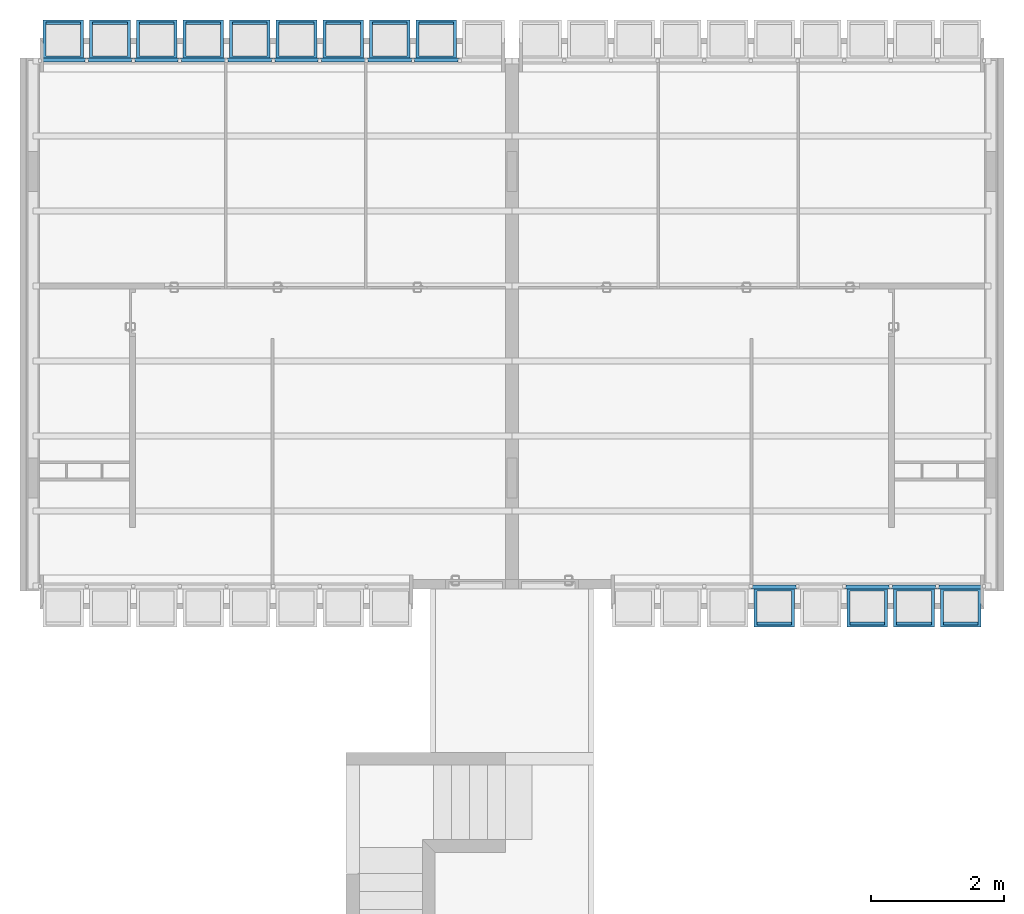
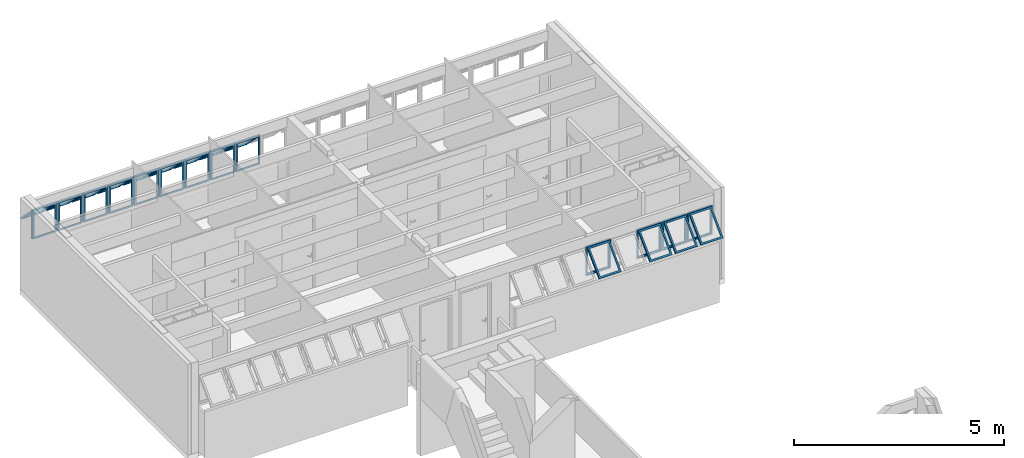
# One storey, part 33 of 38: 13 building element parts, 15 elements without a shape of their own.
"""IFC2X3 building model written with IfcOpenShell, lengths in millimetres."""

from ifc_helpers import new_model, entity, si_unit, converted_unit, derived_unit, money_unit, direction, frame, origin_with_axes, place, context, subcontext, project, spatial, faceted_brep, source, transform, mapped, material, type_object, element, aggregate, save


model = new_model("IFC2X3")

# Units and contexts
model_context = context("Model", 3, precision=0.01, world=origin_with_axes(), true_north=direction((0.0, 1.0)))
body_context = subcontext(model_context, "Body", "Model", "MODEL_VIEW")
ifc_project = project(units=[si_unit("LENGTHUNIT", "METRE", prefix="MILLI"), si_unit("AREAUNIT", "SQUARE_METRE"), si_unit("VOLUMEUNIT", "CUBIC_METRE"), converted_unit("PLANEANGLEUNIT", "DEGREE", entity("IfcPlaneAngleMeasure", 0.0174532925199), si_unit("PLANEANGLEUNIT", "RADIAN"), dimensions=[0, 0, 0, 0, 0, 0, 0]), money_unit("USD"), converted_unit("TIMEUNIT", "Year", entity("IfcTimeMeasure", 31556926.0), si_unit("TIMEUNIT", "SECOND"), dimensions=[0, 0, 1, 0, 0, 0, 0]), si_unit("MASSUNIT", "GRAM", prefix="KILO"), si_unit("THERMODYNAMICTEMPERATUREUNIT", "DEGREE_CELSIUS"), si_unit("LUMINOUSINTENSITYUNIT", "LUMEN"), si_unit("ENERGYUNIT", "JOULE", prefix="MEGA"), derived_unit("THERMALCONDUCTANCEUNIT", [(si_unit("POWERUNIT", "WATT"), 1), (si_unit("LENGTHUNIT", "METRE"), -1), (si_unit("THERMODYNAMICTEMPERATUREUNIT", "KELVIN"), -1)]), derived_unit("SPECIFICHEATCAPACITYUNIT", [(si_unit("ENERGYUNIT", "JOULE"), 1), (si_unit("MASSUNIT", "GRAM", prefix="KILO"), -1), (si_unit("THERMODYNAMICTEMPERATUREUNIT", "KELVIN"), -1)]), derived_unit("MASSDENSITYUNIT", [(si_unit("MASSUNIT", "GRAM", prefix="KILO"), 1), (si_unit("VOLUMEUNIT", "CUBIC_METRE"), -1)])], contexts=[model_context])

# Site, building, storey
site_placement = place(None, origin_with_axes())
site = spatial("IfcSite", under=ifc_project, at=site_placement, Name="Local", CompositionType="ELEMENT")
building_placement = place(site_placement, origin_with_axes())
building = spatial("IfcBuilding", under=site, at=building_placement, Name="Construção", CompositionType="ELEMENT")
storey_placement = place(building_placement, frame((0.0, 0.0, 2650.0), z_axis=(0.0, 0.0, 1.0), x_axis=(1.0, 0.0, 0.0)))
storey = spatial("IfcBuildingStorey", under=building, at=storey_placement, Name="Segundo Pavimento", CompositionType="ELEMENT", Elevation=2650.0)

# Window, plates, building element parts
window_style = type_object("IfcWindowStyle", Name="Tipo de Parede Cortina", ConstructionType="NOTDEFINED", OperationType="NOTDEFINED", ParameterTakesPrecedence=False, Sizeable=False)
window_1_placement = place(storey_placement, frame((6250.0, 25844.9790225, 1355.02054151), z_axis=(0.0, 0.0, 1.0), x_axis=(1.0, 0.0, 0.0)))
window_1 = element("IfcWindow", 1, at=window_1_placement, inside=storey, type_object=window_style, Name="APTO7-JANELA-001")
plate_type = type_object("IfcPlateType", Name="Painel Principal 690 x 845 x 20", PredefinedType="CURTAIN_PANEL")
plate_1_placement = place(window_1_placement, frame((0.0, 0.0, 422.499945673), z_axis=(0.0, 0.0, 1.0), x_axis=(-1.0, 0.0, 0.0)))
plate_1 = element("IfcPlate", 2, at=plate_1_placement, type_object=plate_type, Name="APTO7-Painel-Prin-030")
ifc_material = material(Name="Alumínio")
shared_shape_1 = source(origin_with_axes(), body_context, "Body", "Brep", [
    faceted_brep([(-25.0000036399, 0.0, -40.0), (-25.0000036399, 0.0, -35.0), (-674.999997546, 0.0, -35.0), (-674.999997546, 0.0, -40.0), (-70.0000036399, 45.0, -40.0), (-70.0000036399, 45.0, -35.0), (-629.999997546, 45.0, -35.0), (-629.999997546, 45.0, -40.0)], [[[0, 1, 2, 3]], [[4, 5, 1, 0]], [[1, 5, 6, 2]], [[3, 2, 6, 7]], [[0, 3, 7, 4]], [[7, 6, 5, 4]]]),
    faceted_brep([(-674.999997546, 0.0, -40.0), (-674.999997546, 0.0, -35.0), (-674.999997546, 844.999891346, -35.0), (-674.999997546, 844.999891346, -40.0), (-629.999997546, 45.0, -40.0), (-629.999997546, 45.0, -35.0), (-629.999997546, 799.999891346, -35.0), (-629.999997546, 799.999891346, -40.0)], [[[0, 1, 2, 3]], [[4, 5, 1, 0]], [[1, 5, 6, 2]], [[3, 2, 6, 7]], [[0, 3, 7, 4]], [[7, 6, 5, 4]]]),
    faceted_brep([(-25.0000036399, 844.999891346, -40.0), (-25.0000036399, 844.999891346, -35.0), (-70.0000036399, 799.999891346, -35.0), (-70.0000036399, 799.999891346, -40.0), (-674.999997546, 844.999891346, -40.0), (-674.999997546, 844.999891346, -35.0), (-629.999997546, 799.999891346, -35.0), (-629.999997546, 799.999891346, -40.0)], [[[0, 1, 2, 3]], [[4, 5, 1, 0]], [[1, 5, 6, 2]], [[3, 2, 6, 7]], [[0, 3, 7, 4]], [[7, 6, 5, 4]]]),
    faceted_brep([(-25.0000036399, 0.0, -40.0), (-25.0000036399, 0.0, -35.0), (-70.0000036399, 45.0, -35.0), (-70.0000036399, 45.0, -40.0), (-25.0000036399, 844.999891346, -40.0), (-25.0000036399, 844.999891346, -35.0), (-70.0000036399, 799.999891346, -35.0), (-70.0000036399, 799.999891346, -40.0)], [[[0, 1, 2, 3]], [[4, 5, 1, 0]], [[1, 5, 6, 2]], [[3, 2, 6, 7]], [[0, 3, 7, 4]], [[7, 6, 5, 4]]]),
    faceted_brep([(-25.0000036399, 0.0, -35.0), (-25.0000036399, 0.0, 15.0), (-674.999997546, 0.0, 15.0), (-674.999997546, 0.0, -35.0), (-45.0000036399, 20.0, -35.0), (-45.0000036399, 20.0, 15.0), (-654.999997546, 20.0, 15.0), (-654.999997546, 20.0, -35.0)], [[[0, 1, 2, 3]], [[4, 5, 1, 0]], [[1, 5, 6, 2]], [[3, 2, 6, 7]], [[0, 3, 7, 4]], [[7, 6, 5, 4]]]),
    faceted_brep([(-674.999997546, 0.0, -35.0), (-674.999997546, 0.0, 15.0), (-674.999997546, 844.999891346, 15.0), (-674.999997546, 844.999891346, -35.0), (-654.999997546, 20.0, -35.0), (-654.999997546, 20.0, 15.0), (-654.999997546, 824.999891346, 15.0), (-654.999997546, 824.999891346, -35.0)], [[[0, 1, 2, 3]], [[4, 5, 1, 0]], [[1, 5, 6, 2]], [[3, 2, 6, 7]], [[0, 3, 7, 4]], [[7, 6, 5, 4]]]),
    faceted_brep([(-25.0000036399, 844.999891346, -35.0), (-25.0000036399, 844.999891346, 15.0), (-45.0000036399, 824.999891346, 15.0), (-45.0000036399, 824.999891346, -35.0), (-674.999997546, 844.999891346, -35.0), (-674.999997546, 844.999891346, 15.0), (-654.999997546, 824.999891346, 15.0), (-654.999997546, 824.999891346, -35.0)], [[[0, 1, 2, 3]], [[4, 5, 1, 0]], [[1, 5, 6, 2]], [[3, 2, 6, 7]], [[0, 3, 7, 4]], [[7, 6, 5, 4]]]),
    faceted_brep([(-25.0000036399, 0.0, -35.0), (-25.0000036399, 0.0, 15.0), (-45.0000036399, 20.0, 15.0), (-45.0000036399, 20.0, -35.0), (-25.0000036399, 844.999891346, -35.0), (-25.0000036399, 844.999891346, 15.0), (-45.0000036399, 824.999891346, 15.0), (-45.0000036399, 824.999891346, -35.0)], [[[0, 1, 2, 3]], [[4, 5, 1, 0]], [[1, 5, 6, 2]], [[3, 2, 6, 7]], [[0, 3, 7, 4]], [[7, 6, 5, 4]]]),
    faceted_brep([(-694.999995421, 0.0, -10.0), (-694.999995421, 0.0, 10.0), (-694.999995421, 844.999891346, 10.0), (-694.999995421, 844.999891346, -10.0), (-674.999997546, 0.0, -10.0), (-674.999997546, 0.0, 10.0), (-674.999997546, 844.999891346, 10.0), (-674.999997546, 844.999891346, -10.0)], [[[0, 1, 2, 3]], [[4, 5, 1, 0]], [[1, 5, 6, 2]], [[3, 2, 6, 7]], [[0, 3, 7, 4]], [[7, 6, 5, 4]]]),
    faceted_brep([(-5.00000576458, 844.999891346, -10.0), (-5.00000576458, 844.999891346, 10.0), (-5.00000576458, 0.0, 10.0), (-5.00000576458, 0.0, -10.0), (-25.0000036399, 844.999891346, -10.0), (-25.0000036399, 844.999891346, 10.0), (-25.0000036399, 0.0, 10.0), (-25.0000036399, 0.0, -10.0)], [[[0, 1, 2, 3]], [[4, 5, 1, 0]], [[1, 5, 6, 2]], [[3, 2, 6, 7]], [[0, 3, 7, 4]], [[7, 6, 5, 4]]]),
    faceted_brep([(-90.0000036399, 252.243475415, 517.045737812), (-90.0000036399, 291.13434838, 555.936610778), (-90.0000036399, 796.715620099, 50.3553390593), (-90.0000036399, 757.824747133, 11.4644660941), (-45.0000036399, 220.423670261, 548.865542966), (-45.0000036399, 259.314543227, 587.756415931), (-45.0000036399, 828.535425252, 18.5355339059), (-45.0000036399, 789.644552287, -20.3553390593)], [[[0, 1, 2, 3]], [[4, 5, 1, 0]], [[1, 5, 6, 2]], [[3, 2, 6, 7]], [[0, 3, 7, 4]], [[7, 6, 5, 4]]]),
    faceted_brep([(-654.999997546, 220.423670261, 548.865542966), (-654.999997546, 259.314543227, 587.756415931), (-654.999997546, 828.535425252, 18.5355339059), (-654.999997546, 789.644552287, -20.3553390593), (-609.999997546, 252.243475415, 517.045737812), (-609.999997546, 291.13434838, 555.936610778), (-609.999997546, 796.715620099, 50.3553390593), (-609.999997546, 757.824747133, 11.4644660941)], [[[0, 1, 2, 3]], [[4, 5, 1, 0]], [[1, 5, 6, 2]], [[3, 2, 6, 7]], [[0, 3, 7, 4]], [[7, 6, 5, 4]]]),
    faceted_brep([(-654.999997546, 220.423670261, 548.865542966), (-654.999997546, 259.314543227, 587.756415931), (-609.999997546, 291.13434838, 555.936610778), (-609.999997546, 252.243475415, 517.045737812), (-45.0000036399, 220.423670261, 548.865542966), (-45.0000036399, 259.314543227, 587.756415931), (-90.0000036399, 291.13434838, 555.936610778), (-90.0000036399, 252.243475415, 517.045737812)], [[[0, 1, 2, 3]], [[4, 5, 1, 0]], [[1, 5, 6, 2]], [[3, 2, 6, 7]], [[0, 3, 7, 4]], [[7, 6, 5, 4]]]),
    faceted_brep([(-45.0000036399, 789.644552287, -20.3553390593), (-45.0000036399, 828.535425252, 18.5355339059), (-90.0000036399, 796.715620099, 50.3553390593), (-90.0000036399, 757.824747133, 11.4644660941), (-654.999997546, 789.644552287, -20.3553390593), (-654.999997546, 828.535425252, 18.5355339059), (-609.999997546, 796.715620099, 50.3553390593), (-609.999997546, 757.824747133, 11.4644660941)], [[[0, 1, 2, 3]], [[4, 5, 1, 0]], [[1, 5, 6, 2]], [[3, 2, 6, 7]], [[0, 3, 7, 4]], [[7, 6, 5, 4]]]),
])
building_element_part_1_placement = place(plate_1_placement, origin_with_axes())
building_element_part_1 = element("IfcBuildingElementPart", 3, at=building_element_part_1_placement, material=ifc_material, Name="Alumínio", context=body_context, shape_type="MappedRepresentation", body=[
    mapped(shared_shape_1, transform((350.0, 0.0, -422.499945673), x_axis=(1.0, 0.0, 0.0), y_axis=(0.0, 0.0, 1.0), z_axis=(0.0, -1.0, 0.0))),
])
aggregate(plate_1, [building_element_part_1])
plate_2_placement = place(window_1_placement, frame((-700.0, 0.0, 422.499945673), z_axis=(0.0, 0.0, 1.0), x_axis=(-1.0, 0.0, 0.0)))
plate_2 = element("IfcPlate", 4, at=plate_2_placement, type_object=plate_type, Name="APTO7-Painel-Prin-020")
building_element_part_2_placement = place(plate_2_placement, origin_with_axes())
building_element_part_2 = element("IfcBuildingElementPart", 5, at=building_element_part_2_placement, material=ifc_material, Name="Alumínio", context=body_context, shape_type="MappedRepresentation", body=[
    mapped(shared_shape_1, transform((350.0, 0.0, -422.499945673), x_axis=(1.0, 0.0, 0.0), y_axis=(0.0, 0.0, 1.0), z_axis=(0.0, -1.0, 0.0))),
])
aggregate(plate_2, [building_element_part_2])
plate_3_placement = place(window_1_placement, frame((-1400.0, 0.0, 422.499945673), z_axis=(0.0, 0.0, 1.0), x_axis=(-1.0, 0.0, 0.0)))
plate_3 = element("IfcPlate", 6, at=plate_3_placement, type_object=plate_type, Name="APTO7-Painel-Prin-029")
building_element_part_3_placement = place(plate_3_placement, origin_with_axes())
building_element_part_3 = element("IfcBuildingElementPart", 7, at=building_element_part_3_placement, material=ifc_material, Name="Alumínio", context=body_context, shape_type="MappedRepresentation", body=[
    mapped(shared_shape_1, transform((350.0, 0.0, -422.499945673), x_axis=(1.0, 0.0, 0.0), y_axis=(0.0, 0.0, 1.0), z_axis=(0.0, -1.0, 0.0))),
])
aggregate(plate_3, [building_element_part_3])
plate_4_placement = place(window_1_placement, frame((-3500.0, 0.0, 422.499945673), z_axis=(0.0, 0.0, 1.0), x_axis=(-1.0, 0.0, 0.0)))
plate_4 = element("IfcPlate", 8, at=plate_4_placement, type_object=plate_type, Name="APTO7-Painel-Prin-013")
building_element_part_4_placement = place(plate_4_placement, origin_with_axes())
building_element_part_4 = element("IfcBuildingElementPart", 9, at=building_element_part_4_placement, material=ifc_material, Name="Alumínio", context=body_context, shape_type="MappedRepresentation", body=[
    mapped(shared_shape_1, transform((350.0, 0.0, -422.499945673), x_axis=(1.0, 0.0, 0.0), y_axis=(0.0, 0.0, 1.0), z_axis=(0.0, -1.0, 0.0))),
])
aggregate(plate_4, [building_element_part_4])
plate_5_placement = place(window_1_placement, frame((-5600.0, 0.0, 422.499945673), z_axis=(0.0, 0.0, 1.0), x_axis=(-1.0, 0.0, 0.0)))
plate_5 = element("IfcPlate", 10, at=plate_5_placement, type_object=plate_type, Name="APTO7-Painel-Prin-013")
shared_shape_2 = source(origin_with_axes(), body_context, "Body", "Brep", [
    faceted_brep([(-25.0000036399, 0.0, -40.0), (-25.0000036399, 0.0, -35.0), (-674.999997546, 0.0, -35.0), (-674.999997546, 0.0, -40.0), (-70.0000036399, 45.0, -40.0), (-70.0000036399, 45.0, -35.0), (-629.999997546, 45.0, -35.0), (-629.999997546, 45.0, -40.0)], [[[0, 1, 2, 3]], [[4, 5, 1, 0]], [[1, 5, 6, 2]], [[3, 2, 6, 7]], [[0, 3, 7, 4]], [[7, 6, 5, 4]]]),
    faceted_brep([(-674.999997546, 0.0, -40.0), (-674.999997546, 0.0, -35.0), (-674.999997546, 844.999891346, -35.0), (-674.999997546, 844.999891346, -40.0), (-629.999997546, 45.0, -40.0), (-629.999997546, 45.0, -35.0), (-629.999997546, 799.999891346, -35.0), (-629.999997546, 799.999891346, -40.0)], [[[0, 1, 2, 3]], [[4, 5, 1, 0]], [[1, 5, 6, 2]], [[3, 2, 6, 7]], [[0, 3, 7, 4]], [[7, 6, 5, 4]]]),
    faceted_brep([(-25.0000036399, 844.999891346, -40.0), (-25.0000036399, 844.999891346, -35.0), (-70.0000036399, 799.999891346, -35.0), (-70.0000036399, 799.999891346, -40.0), (-674.999997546, 844.999891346, -40.0), (-674.999997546, 844.999891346, -35.0), (-629.999997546, 799.999891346, -35.0), (-629.999997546, 799.999891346, -40.0)], [[[0, 1, 2, 3]], [[4, 5, 1, 0]], [[1, 5, 6, 2]], [[3, 2, 6, 7]], [[0, 3, 7, 4]], [[7, 6, 5, 4]]]),
    faceted_brep([(-25.0000036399, 0.0, -40.0), (-25.0000036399, 0.0, -35.0), (-70.0000036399, 45.0, -35.0), (-70.0000036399, 45.0, -40.0), (-25.0000036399, 844.999891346, -40.0), (-25.0000036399, 844.999891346, -35.0), (-70.0000036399, 799.999891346, -35.0), (-70.0000036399, 799.999891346, -40.0)], [[[0, 1, 2, 3]], [[4, 5, 1, 0]], [[1, 5, 6, 2]], [[3, 2, 6, 7]], [[0, 3, 7, 4]], [[7, 6, 5, 4]]]),
    faceted_brep([(-25.0000036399, 0.0, -35.0), (-25.0000036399, 0.0, 15.0), (-674.999997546, 0.0, 15.0), (-674.999997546, 0.0, -35.0), (-45.0000036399, 20.0, -35.0), (-45.0000036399, 20.0, 15.0), (-654.999997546, 20.0, 15.0), (-654.999997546, 20.0, -35.0)], [[[0, 1, 2, 3]], [[4, 5, 1, 0]], [[1, 5, 6, 2]], [[3, 2, 6, 7]], [[0, 3, 7, 4]], [[7, 6, 5, 4]]]),
    faceted_brep([(-674.999997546, 0.0, -35.0), (-674.999997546, 0.0, 15.0), (-674.999997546, 844.999891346, 15.0), (-674.999997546, 844.999891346, -35.0), (-654.999997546, 20.0, -35.0), (-654.999997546, 20.0, 15.0), (-654.999997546, 824.999891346, 15.0), (-654.999997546, 824.999891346, -35.0)], [[[0, 1, 2, 3]], [[4, 5, 1, 0]], [[1, 5, 6, 2]], [[3, 2, 6, 7]], [[0, 3, 7, 4]], [[7, 6, 5, 4]]]),
    faceted_brep([(-25.0000036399, 844.999891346, -35.0), (-25.0000036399, 844.999891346, 15.0), (-45.0000036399, 824.999891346, 15.0), (-45.0000036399, 824.999891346, -35.0), (-674.999997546, 844.999891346, -35.0), (-674.999997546, 844.999891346, 15.0), (-654.999997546, 824.999891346, 15.0), (-654.999997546, 824.999891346, -35.0)], [[[0, 1, 2, 3]], [[4, 5, 1, 0]], [[1, 5, 6, 2]], [[3, 2, 6, 7]], [[0, 3, 7, 4]], [[7, 6, 5, 4]]]),
    faceted_brep([(-25.0000036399, 0.0, -35.0), (-25.0000036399, 0.0, 15.0), (-45.0000036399, 20.0, 15.0), (-45.0000036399, 20.0, -35.0), (-25.0000036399, 844.999891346, -35.0), (-25.0000036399, 844.999891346, 15.0), (-45.0000036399, 824.999891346, 15.0), (-45.0000036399, 824.999891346, -35.0)], [[[0, 1, 2, 3]], [[4, 5, 1, 0]], [[1, 5, 6, 2]], [[3, 2, 6, 7]], [[0, 3, 7, 4]], [[7, 6, 5, 4]]]),
    faceted_brep([(-694.999995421, 0.0, -10.0), (-694.999995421, 0.0, 10.0), (-694.999995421, 844.999891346, 10.0), (-694.999995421, 844.999891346, -10.0), (-674.999997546, 0.0, -10.0), (-674.999997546, 0.0, 10.0), (-674.999997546, 844.999891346, 10.0), (-674.999997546, 844.999891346, -10.0)], [[[0, 1, 2, 3]], [[4, 5, 1, 0]], [[1, 5, 6, 2]], [[3, 2, 6, 7]], [[0, 3, 7, 4]], [[7, 6, 5, 4]]]),
    faceted_brep([(-5.00000576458, 844.999891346, -10.0), (-5.00000576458, 844.999891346, 10.0), (-5.00000576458, 0.0, 10.0), (-5.00000576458, 0.0, -10.0), (-25.0000036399, 844.999891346, -10.0), (-25.0000036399, 844.999891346, 10.0), (-25.0000036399, 0.0, 10.0), (-25.0000036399, 0.0, -10.0)], [[[0, 1, 2, 3]], [[4, 5, 1, 0]], [[1, 5, 6, 2]], [[3, 2, 6, 7]], [[0, 3, 7, 4]], [[7, 6, 5, 4]]]),
    faceted_brep([(-90.0000036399, 252.243475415, 517.045737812), (-90.0000036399, 291.13434838, 555.936610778), (-90.0000036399, 796.715620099, 50.3553390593), (-90.0000036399, 757.824747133, 11.4644660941), (-45.0000036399, 220.423670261, 548.865542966), (-45.0000036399, 259.314543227, 587.756415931), (-45.0000036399, 828.535425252, 18.5355339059), (-45.0000036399, 789.644552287, -20.3553390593)], [[[0, 1, 2, 3]], [[4, 5, 1, 0]], [[1, 5, 6, 2]], [[3, 2, 6, 7]], [[0, 3, 7, 4]], [[7, 6, 5, 4]]]),
    faceted_brep([(-654.999997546, 220.423670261, 548.865542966), (-654.999997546, 259.314543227, 587.756415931), (-654.999997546, 828.535425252, 18.5355339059), (-654.999997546, 789.644552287, -20.3553390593), (-609.999997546, 252.243475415, 517.045737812), (-609.999997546, 291.13434838, 555.936610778), (-609.999997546, 796.715620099, 50.3553390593), (-609.999997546, 757.824747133, 11.4644660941)], [[[0, 1, 2, 3]], [[4, 5, 1, 0]], [[1, 5, 6, 2]], [[3, 2, 6, 7]], [[0, 3, 7, 4]], [[7, 6, 5, 4]]]),
    faceted_brep([(-654.999997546, 220.423670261, 548.865542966), (-654.999997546, 259.314543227, 587.756415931), (-609.999997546, 291.13434838, 555.936610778), (-609.999997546, 252.243475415, 517.045737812), (-45.0000036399, 220.423670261, 548.865542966), (-45.0000036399, 259.314543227, 587.756415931), (-90.0000036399, 291.13434838, 555.936610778), (-90.0000036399, 252.243475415, 517.045737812)], [[[0, 1, 2, 3]], [[4, 5, 1, 0]], [[1, 5, 6, 2]], [[3, 2, 6, 7]], [[0, 3, 7, 4]], [[7, 6, 5, 4]]]),
    faceted_brep([(-45.0000036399, 789.644552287, -20.3553390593), (-45.0000036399, 828.535425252, 18.5355339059), (-90.0000036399, 796.715620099, 50.3553390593), (-90.0000036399, 757.824747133, 11.4644660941), (-654.999997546, 789.644552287, -20.3553390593), (-654.999997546, 828.535425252, 18.5355339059), (-609.999997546, 796.715620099, 50.3553390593), (-609.999997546, 757.824747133, 11.4644660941)], [[[0, 1, 2, 3]], [[4, 5, 1, 0]], [[1, 5, 6, 2]], [[3, 2, 6, 7]], [[0, 3, 7, 4]], [[7, 6, 5, 4]]]),
])
building_element_part_5_placement = place(plate_5_placement, origin_with_axes())
building_element_part_5 = element("IfcBuildingElementPart", 11, at=building_element_part_5_placement, material=ifc_material, Name="Alumínio", context=body_context, shape_type="MappedRepresentation", body=[
    mapped(shared_shape_2, transform((350.0, 0.0, -422.499945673), x_axis=(1.0, 0.0, 0.0), y_axis=(0.0, 0.0, 1.0), z_axis=(0.0, -1.0, 0.0))),
])
aggregate(plate_5, [building_element_part_5])
plate_6_placement = place(window_1_placement, frame((-4900.0, 0.0, 422.499945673), z_axis=(0.0, 0.0, 1.0), x_axis=(-1.0, 0.0, 0.0)))
plate_6 = element("IfcPlate", 12, at=plate_6_placement, type_object=plate_type, Name="APTO7-Painel-Prin-013")
building_element_part_6_placement = place(plate_6_placement, origin_with_axes())
building_element_part_6 = element("IfcBuildingElementPart", 13, at=building_element_part_6_placement, material=ifc_material, Name="Alumínio", context=body_context, shape_type="MappedRepresentation", body=[
    mapped(shared_shape_2, transform((350.0, 0.0, -422.499945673), x_axis=(1.0, 0.0, 0.0), y_axis=(0.0, 0.0, 1.0), z_axis=(0.0, -1.0, 0.0))),
])
aggregate(plate_6, [building_element_part_6])
plate_7_placement = place(window_1_placement, frame((-2100.0, 0.0, 422.499945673), z_axis=(0.0, 0.0, 1.0), x_axis=(-1.0, 0.0, 0.0)))
plate_7 = element("IfcPlate", 14, at=plate_7_placement, type_object=plate_type, Name="APTO7-Painel-Prin-025")
building_element_part_7_placement = place(plate_7_placement, origin_with_axes())
building_element_part_7 = element("IfcBuildingElementPart", 15, at=building_element_part_7_placement, material=ifc_material, Name="Alumínio", context=body_context, shape_type="MappedRepresentation", body=[
    mapped(shared_shape_2, transform((350.0, 0.0, -422.499945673), x_axis=(1.0, 0.0, 0.0), y_axis=(0.0, 0.0, 1.0), z_axis=(0.0, -1.0, 0.0))),
])
aggregate(plate_7, [building_element_part_7])

window_2_placement = place(storey_placement, frame((12020.0, 17910.0, 1355.00007107), z_axis=(0.0, 0.0, 1.0), x_axis=(1.0, 0.0, 0.0)))
window_2 = element("IfcWindow", 16, at=window_2_placement, inside=storey, type_object=window_style, Name="APTO8-JANELA-000")
plate_8_placement = place(window_2_placement, frame((2100.0, 0.0, 422.499998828), z_axis=(0.0, 0.0, 1.0), x_axis=(1.0, 0.0, 0.0)))
plate_8 = element("IfcPlate", 17, at=plate_8_placement, type_object=plate_type, Name="APTO8-Painel-Prin-013")
building_element_part_8_placement = place(plate_8_placement, origin_with_axes())
building_element_part_8 = element("IfcBuildingElementPart", 18, at=building_element_part_8_placement, material=ifc_material, Name="Alumínio", context=body_context, shape_type="MappedRepresentation", body=[
    mapped(shared_shape_2, transform((350.0, 0.0, -422.499998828), x_axis=(1.0, 0.0, 0.0), y_axis=(0.0, 0.0, 1.0), z_axis=(0.0, -1.0, 0.0))),
])
aggregate(plate_8, [building_element_part_8])
plate_9_placement = place(window_2_placement, frame((1400.0, 0.0, 422.499964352), z_axis=(0.0, 0.0, 1.0), x_axis=(1.0, 0.0, 0.0)))
plate_9 = element("IfcPlate", 19, at=plate_9_placement, type_object=plate_type, Name="APTO8-Painel-Prin-013")
building_element_part_9_placement = place(plate_9_placement, origin_with_axes())
building_element_part_9 = element("IfcBuildingElementPart", 20, at=building_element_part_9_placement, material=ifc_material, Name="Alumínio", context=body_context, shape_type="MappedRepresentation", body=[
    mapped(shared_shape_2, transform((350.0, 0.0, -422.499964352), x_axis=(1.0, 0.0, 0.0), y_axis=(0.0, 0.0, 1.0), z_axis=(0.0, -1.0, 0.0))),
])
aggregate(plate_9, [building_element_part_9])

# Plate, building element part
plate_10_placement = place(window_1_placement, frame((-2800.0, 0.0, 422.499945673), z_axis=(0.0, 0.0, 1.0), x_axis=(-1.0, 0.0, 0.0)))
plate_10 = element("IfcPlate", 21, at=plate_10_placement, type_object=plate_type, Name="APTO7-Painel-Prin-013")
shared_shape_3 = source(origin_with_axes(), body_context, "Body", "Brep", [
    faceted_brep([(-25.0000036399, 0.0, -40.0), (-25.0000036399, 0.0, -35.0), (-674.999997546, 0.0, -35.0), (-674.999997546, 0.0, -40.0), (-70.0000036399, 45.0, -40.0), (-70.0000036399, 45.0, -35.0), (-629.999997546, 45.0, -35.0), (-629.999997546, 45.0, -40.0)], [[[0, 1, 2, 3]], [[4, 5, 1, 0]], [[1, 5, 6, 2]], [[3, 2, 6, 7]], [[0, 3, 7, 4]], [[7, 6, 5, 4]]]),
    faceted_brep([(-674.999997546, 0.0, -40.0), (-674.999997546, 0.0, -35.0), (-674.999997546, 844.999891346, -35.0), (-674.999997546, 844.999891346, -40.0), (-629.999997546, 45.0, -40.0), (-629.999997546, 45.0, -35.0), (-629.999997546, 799.999891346, -35.0), (-629.999997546, 799.999891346, -40.0)], [[[0, 1, 2, 3]], [[4, 5, 1, 0]], [[1, 5, 6, 2]], [[3, 2, 6, 7]], [[0, 3, 7, 4]], [[7, 6, 5, 4]]]),
    faceted_brep([(-25.0000036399, 844.999891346, -40.0), (-25.0000036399, 844.999891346, -35.0), (-70.0000036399, 799.999891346, -35.0), (-70.0000036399, 799.999891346, -40.0), (-674.999997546, 844.999891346, -40.0), (-674.999997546, 844.999891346, -35.0), (-629.999997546, 799.999891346, -35.0), (-629.999997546, 799.999891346, -40.0)], [[[0, 1, 2, 3]], [[4, 5, 1, 0]], [[1, 5, 6, 2]], [[3, 2, 6, 7]], [[0, 3, 7, 4]], [[7, 6, 5, 4]]]),
    faceted_brep([(-25.0000036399, 0.0, -40.0), (-25.0000036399, 0.0, -35.0), (-70.0000036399, 45.0, -35.0), (-70.0000036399, 45.0, -40.0), (-25.0000036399, 844.999891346, -40.0), (-25.0000036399, 844.999891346, -35.0), (-70.0000036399, 799.999891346, -35.0), (-70.0000036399, 799.999891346, -40.0)], [[[0, 1, 2, 3]], [[4, 5, 1, 0]], [[1, 5, 6, 2]], [[3, 2, 6, 7]], [[0, 3, 7, 4]], [[7, 6, 5, 4]]]),
    faceted_brep([(-25.0000036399, 0.0, -35.0), (-25.0000036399, 0.0, 15.0), (-674.999997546, 0.0, 15.0), (-674.999997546, 0.0, -35.0), (-45.0000036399, 20.0, -35.0), (-45.0000036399, 20.0, 15.0), (-654.999997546, 20.0, 15.0), (-654.999997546, 20.0, -35.0)], [[[0, 1, 2, 3]], [[4, 5, 1, 0]], [[1, 5, 6, 2]], [[3, 2, 6, 7]], [[0, 3, 7, 4]], [[7, 6, 5, 4]]]),
    faceted_brep([(-674.999997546, 0.0, -35.0), (-674.999997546, 0.0, 15.0), (-674.999997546, 844.999891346, 15.0), (-674.999997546, 844.999891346, -35.0), (-654.999997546, 20.0, -35.0), (-654.999997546, 20.0, 15.0), (-654.999997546, 824.999891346, 15.0), (-654.999997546, 824.999891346, -35.0)], [[[0, 1, 2, 3]], [[4, 5, 1, 0]], [[1, 5, 6, 2]], [[3, 2, 6, 7]], [[0, 3, 7, 4]], [[7, 6, 5, 4]]]),
    faceted_brep([(-25.0000036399, 844.999891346, -35.0), (-25.0000036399, 844.999891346, 15.0), (-45.0000036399, 824.999891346, 15.0), (-45.0000036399, 824.999891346, -35.0), (-674.999997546, 844.999891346, -35.0), (-674.999997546, 844.999891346, 15.0), (-654.999997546, 824.999891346, 15.0), (-654.999997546, 824.999891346, -35.0)], [[[0, 1, 2, 3]], [[4, 5, 1, 0]], [[1, 5, 6, 2]], [[3, 2, 6, 7]], [[0, 3, 7, 4]], [[7, 6, 5, 4]]]),
    faceted_brep([(-25.0000036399, 0.0, -35.0), (-25.0000036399, 0.0, 15.0), (-45.0000036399, 20.0, 15.0), (-45.0000036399, 20.0, -35.0), (-25.0000036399, 844.999891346, -35.0), (-25.0000036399, 844.999891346, 15.0), (-45.0000036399, 824.999891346, 15.0), (-45.0000036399, 824.999891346, -35.0)], [[[0, 1, 2, 3]], [[4, 5, 1, 0]], [[1, 5, 6, 2]], [[3, 2, 6, 7]], [[0, 3, 7, 4]], [[7, 6, 5, 4]]]),
    faceted_brep([(-694.999995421, 0.0, -10.0), (-694.999995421, 0.0, 10.0), (-694.999995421, 844.999891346, 10.0), (-694.999995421, 844.999891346, -10.0), (-674.999997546, 0.0, -10.0), (-674.999997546, 0.0, 10.0), (-674.999997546, 844.999891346, 10.0), (-674.999997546, 844.999891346, -10.0)], [[[0, 1, 2, 3]], [[4, 5, 1, 0]], [[1, 5, 6, 2]], [[3, 2, 6, 7]], [[0, 3, 7, 4]], [[7, 6, 5, 4]]]),
    faceted_brep([(-5.00000576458, 844.999891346, -10.0), (-5.00000576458, 844.999891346, 10.0), (-5.00000576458, 0.0, 10.0), (-5.00000576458, 0.0, -10.0), (-25.0000036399, 844.999891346, -10.0), (-25.0000036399, 844.999891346, 10.0), (-25.0000036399, 0.0, 10.0), (-25.0000036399, 0.0, -10.0)], [[[0, 1, 2, 3]], [[4, 5, 1, 0]], [[1, 5, 6, 2]], [[3, 2, 6, 7]], [[0, 3, 7, 4]], [[7, 6, 5, 4]]]),
    faceted_brep([(-90.0000036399, 252.243475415, 517.045737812), (-90.0000036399, 291.13434838, 555.936610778), (-90.0000036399, 796.715620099, 50.3553390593), (-90.0000036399, 757.824747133, 11.4644660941), (-45.0000036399, 220.423670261, 548.865542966), (-45.0000036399, 259.314543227, 587.756415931), (-45.0000036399, 828.535425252, 18.5355339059), (-45.0000036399, 789.644552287, -20.3553390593)], [[[0, 1, 2, 3]], [[4, 5, 1, 0]], [[1, 5, 6, 2]], [[3, 2, 6, 7]], [[0, 3, 7, 4]], [[7, 6, 5, 4]]]),
    faceted_brep([(-654.999997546, 220.423670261, 548.865542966), (-654.999997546, 259.314543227, 587.756415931), (-654.999997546, 828.535425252, 18.5355339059), (-654.999997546, 789.644552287, -20.3553390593), (-609.999997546, 252.243475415, 517.045737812), (-609.999997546, 291.13434838, 555.936610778), (-609.999997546, 796.715620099, 50.3553390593), (-609.999997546, 757.824747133, 11.4644660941)], [[[0, 1, 2, 3]], [[4, 5, 1, 0]], [[1, 5, 6, 2]], [[3, 2, 6, 7]], [[0, 3, 7, 4]], [[7, 6, 5, 4]]]),
    faceted_brep([(-654.999997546, 220.423670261, 548.865542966), (-654.999997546, 259.314543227, 587.756415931), (-609.999997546, 291.13434838, 555.936610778), (-609.999997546, 252.243475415, 517.045737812), (-45.0000036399, 220.423670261, 548.865542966), (-45.0000036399, 259.314543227, 587.756415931), (-90.0000036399, 291.13434838, 555.936610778), (-90.0000036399, 252.243475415, 517.045737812)], [[[0, 1, 2, 3]], [[4, 5, 1, 0]], [[1, 5, 6, 2]], [[3, 2, 6, 7]], [[0, 3, 7, 4]], [[7, 6, 5, 4]]]),
    faceted_brep([(-45.0000036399, 789.644552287, -20.3553390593), (-45.0000036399, 828.535425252, 18.5355339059), (-90.0000036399, 796.715620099, 50.3553390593), (-90.0000036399, 757.824747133, 11.4644660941), (-654.999997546, 789.644552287, -20.3553390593), (-654.999997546, 828.535425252, 18.5355339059), (-609.999997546, 796.715620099, 50.3553390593), (-609.999997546, 757.824747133, 11.4644660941)], [[[0, 1, 2, 3]], [[4, 5, 1, 0]], [[1, 5, 6, 2]], [[3, 2, 6, 7]], [[0, 3, 7, 4]], [[7, 6, 5, 4]]]),
])
building_element_part_10_placement = place(plate_10_placement, origin_with_axes())
building_element_part_10 = element("IfcBuildingElementPart", 22, at=building_element_part_10_placement, material=ifc_material, Name="Alumínio", context=body_context, shape_type="MappedRepresentation", body=[
    mapped(shared_shape_3, transform((350.0, 0.0, -422.499945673), x_axis=(1.0, 0.0, 0.0), y_axis=(0.0, 0.0, 1.0), z_axis=(0.0, -1.0, 0.0))),
])
aggregate(plate_10, [building_element_part_10])

# Plate
plate_11_placement = place(window_1_placement, frame((-4200.0, 0.0, 422.499945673), z_axis=(0.0, 0.0, 1.0), x_axis=(-1.0, 0.0, 0.0)))
plate_11 = element("IfcPlate", 23, at=plate_11_placement, type_object=plate_type, Name="APTO7-Painel-Prin-013")

aggregate(window_1, [plate_1, plate_5, plate_6, plate_10, plate_7, plate_2, plate_11, plate_3, plate_4])

# Building element part
building_element_part_11_placement = place(plate_11_placement, origin_with_axes())
building_element_part_11 = element("IfcBuildingElementPart", 24, at=building_element_part_11_placement, material=ifc_material, Name="Alumínio", context=body_context, shape_type="MappedRepresentation", body=[
    mapped(shared_shape_3, transform((350.0, 0.0, -422.499945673), x_axis=(1.0, 0.0, 0.0), y_axis=(0.0, 0.0, 1.0), z_axis=(0.0, -1.0, 0.0))),
])

aggregate(plate_11, [building_element_part_11])

# Plate, building element part
plate_12_placement = place(window_2_placement, frame((-700.0, 0.0, 422.499964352), z_axis=(0.0, 0.0, 1.0), x_axis=(1.0, 0.0, 0.0)))
plate_12 = element("IfcPlate", 25, at=plate_12_placement, type_object=plate_type, Name="APTO8-Painel-Prin-013")
building_element_part_12_placement = place(plate_12_placement, origin_with_axes())
building_element_part_12 = element("IfcBuildingElementPart", 26, at=building_element_part_12_placement, material=ifc_material, Name="Alumínio", context=body_context, shape_type="MappedRepresentation", body=[
    mapped(shared_shape_3, transform((350.0, 0.0, -422.499964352), x_axis=(1.0, 0.0, 0.0), y_axis=(0.0, 0.0, 1.0), z_axis=(0.0, -1.0, 0.0))),
])
aggregate(plate_12, [building_element_part_12])

# Plate
plate_13_placement = place(window_2_placement, frame((700.0, 0.0, 422.499964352), z_axis=(0.0, 0.0, 1.0), x_axis=(1.0, 0.0, 0.0)))
plate_13 = element("IfcPlate", 27, at=plate_13_placement, type_object=plate_type, Name="APTO8-Painel-Prin-013")

aggregate(window_2, [plate_8, plate_9, plate_12, plate_13])

# Building element part
building_element_part_13_placement = place(plate_13_placement, origin_with_axes())
building_element_part_13 = element("IfcBuildingElementPart", 28, at=building_element_part_13_placement, material=ifc_material, Name="Alumínio", context=body_context, shape_type="MappedRepresentation", body=[
    mapped(shared_shape_3, transform((350.0, 0.0, -422.499964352), x_axis=(1.0, 0.0, 0.0), y_axis=(0.0, 0.0, 1.0), z_axis=(0.0, -1.0, 0.0))),
])

aggregate(plate_13, [building_element_part_13])

save(model, "model.ifc")
